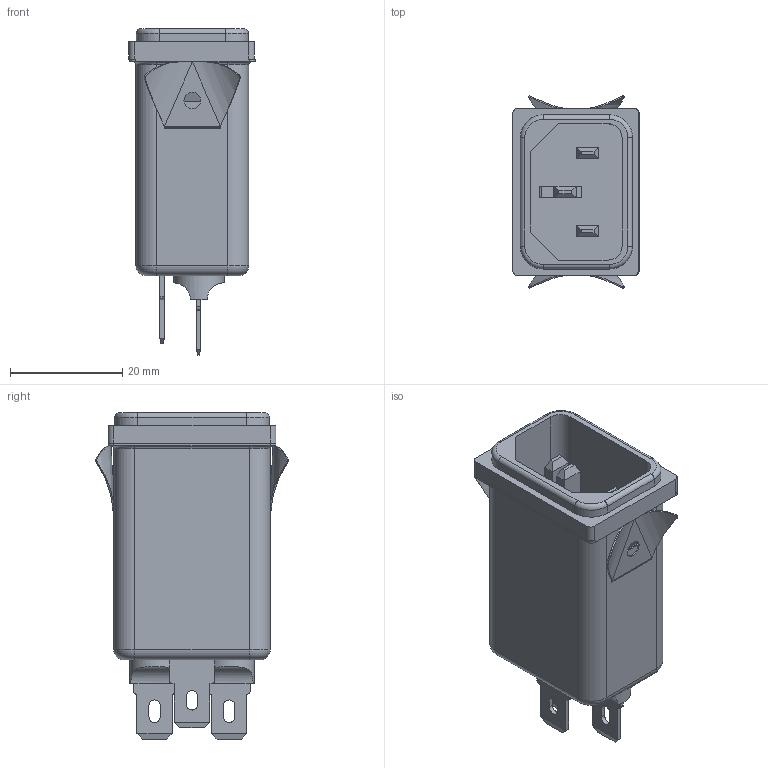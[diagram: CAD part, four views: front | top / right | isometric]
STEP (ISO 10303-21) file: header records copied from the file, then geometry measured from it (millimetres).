
FILE_DESCRIPTION((''),'2;1');
FILE_NAME('D:\_ PRODUCT\FN_PART_FOR_FN9222-XX-07\FN_UPDATE\DB_06 version_Update\3D_inventer\234-177C\FN9222S-xx-06.stp','2013-06-06T10:25:16',('sayan.penton'),(''),'Autodesk Inventor 2010','Autodesk Inventor 2010','');
FILE_SCHEMA(('AUTOMOTIVE_DESIGN { 1 0 10303 214 1 1 1 1 }'));
Length unit declared in the file: millimetre
Products named in the file (1): Part6
Bounding box: 22.52 x 34.41 x 58.2 mm (x, y, z)
Volume: 7880.3 mm3; surface area: 18272.1 mm2
Topology: 1 solids, 3 shells, 671 faces, 1857 edges, 1194 vertices
Faces by surface type: plane 460, cylinder 136, bspline 63, torus 12
Full cylindrical faces by diameter (mm): 3 x1, 9 x2, 9.5 x2
Entity records: 22893 total; most frequent: CARTESIAN_POINT 5069, ORIENTED_EDGE 3698, DIRECTION 3330, EDGE_CURVE 1849, VECTOR 1442, LINE 1442, VERTEX_POINT 1192, AXIS2_PLACEMENT_3D 944
